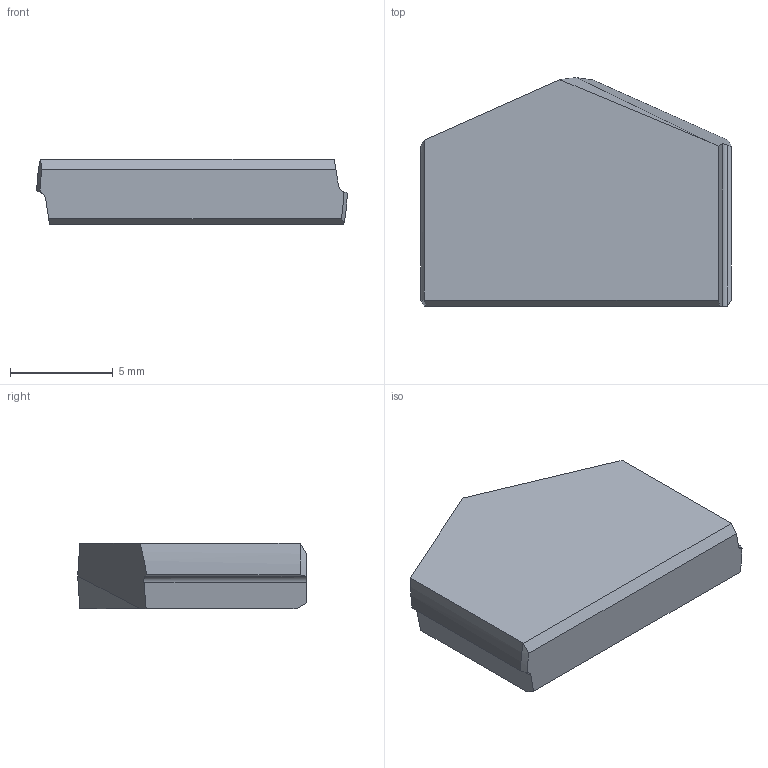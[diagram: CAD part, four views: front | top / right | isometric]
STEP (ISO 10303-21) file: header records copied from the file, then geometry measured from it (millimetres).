
FILE_DESCRIPTION (( 'STEP AP214' ), '1' );
FILE_NAME ('19-32.STEP', '2022-06-24T05:40:47', ( '' ), ( '' ), 'SwSTEP 2.0', 'SolidWorks 2018', '' );
FILE_SCHEMA (( 'AUTOMOTIVE_DESIGN' ));
Length unit declared in the file: millimetre
Products named in the file (1): 19-32
Bounding box: 15.08 x 11.1 x 3.2 mm (x, y, z)
Volume: 438.2 mm3; surface area: 416 mm2
Topology: 1 solids, 1 shells, 19 faces, 50 edges, 33 vertices
Faces by surface type: plane 13, cylinder 4, cone 2
Entity records: 622 total; most frequent: CARTESIAN_POINT 139, ORIENTED_EDGE 100, DIRECTION 84, EDGE_CURVE 50, VERTEX_POINT 33, LINE 32, VECTOR 32, AXIS2_PLACEMENT_3D 26
